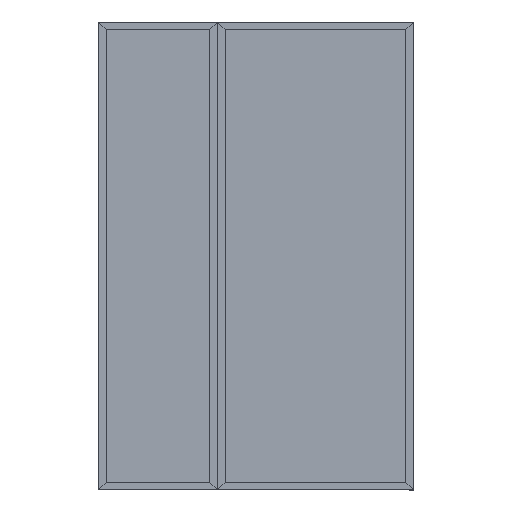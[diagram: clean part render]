
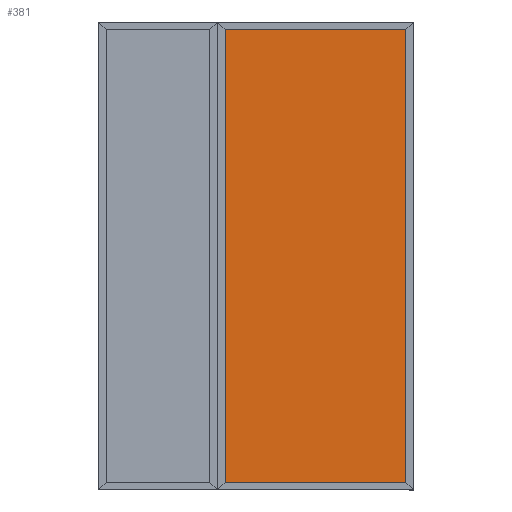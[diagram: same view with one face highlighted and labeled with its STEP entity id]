
A CAD part, top view. The second image highlights one B-rep face of the part: STEP entity #381.
In plain terms, the highlighted planar face has unit normal (0, 0, 1).
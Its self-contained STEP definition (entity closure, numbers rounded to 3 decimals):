
#368 = VERTEX_POINT ( 'NONE', #43073 ) ;
#381 = ADVANCED_FACE ( 'NONE', ( #39768 ), #43837, .F. ) ;
#1909 = VECTOR ( 'NONE', #37424, 1000. ) ;
#5001 = DIRECTION ( 'NONE',  ( 0., 0., -1. ) ) ;
#6961 = LINE ( 'NONE', #44795, #1909 ) ;
#7417 = CARTESIAN_POINT ( 'NONE',  ( 0., -1162.2, -13.25 ) ) ;
#7562 = EDGE_CURVE ( 'NONE', #368, #35717, #42198, .T. ) ;
#7586 = ORIENTED_EDGE ( 'NONE', *, *, #7562, .F. ) ;
#7831 = VERTEX_POINT ( 'NONE', #25395 ) ;
#9779 = ORIENTED_EDGE ( 'NONE', *, *, #46945, .T. ) ;
#10918 = AXIS2_PLACEMENT_3D ( 'NONE', #27583, #5001, #16657 ) ;
#11756 = VERTEX_POINT ( 'NONE', #39835 ) ;
#14916 = VECTOR ( 'NONE', #22882, 1000. ) ;
#15667 = ORIENTED_EDGE ( 'NONE', *, *, #17972, .F. ) ;
#16657 = DIRECTION ( 'NONE',  ( -1., 0., 0. ) ) ;
#17807 = LINE ( 'NONE', #33307, #36671 ) ;
#17972 = EDGE_CURVE ( 'NONE', #35717, #11756, #28154, .T. ) ;
#20061 = ORIENTED_EDGE ( 'NONE', *, *, #23492, .T. ) ;
#20840 = VECTOR ( 'NONE', #43129, 1000. ) ;
#22882 = DIRECTION ( 'NONE',  ( -1., 0., 0. ) ) ;
#23492 = EDGE_CURVE ( 'NONE', #368, #7831, #6961, .T. ) ;
#25395 = CARTESIAN_POINT ( 'NONE',  ( 465.07, 1162.2, -13.25 ) ) ;
#26219 = CARTESIAN_POINT ( 'NONE',  ( -465.07, -1162.2, -13.25 ) ) ;
#27583 = CARTESIAN_POINT ( 'NONE',  ( 0., 0., -13.25 ) ) ;
#28154 = LINE ( 'NONE', #32201, #20840 ) ;
#30984 = EDGE_LOOP ( 'NONE', ( #15667, #7586, #20061, #9779 ) ) ;
#32201 = CARTESIAN_POINT ( 'NONE',  ( -465.07, 0., -13.25 ) ) ;
#33307 = CARTESIAN_POINT ( 'NONE',  ( 0., 1162.2, -13.25 ) ) ;
#35717 = VERTEX_POINT ( 'NONE', #26219 ) ;
#36671 = VECTOR ( 'NONE', #50032, 1000. ) ;
#37424 = DIRECTION ( 'NONE',  ( 0., 1., 0. ) ) ;
#39768 = FACE_OUTER_BOUND ( 'NONE', #30984, .T. ) ;
#39835 = CARTESIAN_POINT ( 'NONE',  ( -465.07, 1162.2, -13.25 ) ) ;
#42198 = LINE ( 'NONE', #7417, #14916 ) ;
#43073 = CARTESIAN_POINT ( 'NONE',  ( 465.07, -1162.2, -13.25 ) ) ;
#43129 = DIRECTION ( 'NONE',  ( 0., 1., 0. ) ) ;
#43837 = PLANE ( 'NONE',  #10918 ) ;
#44795 = CARTESIAN_POINT ( 'NONE',  ( 465.07, 0., -13.25 ) ) ;
#46945 = EDGE_CURVE ( 'NONE', #7831, #11756, #17807, .T. ) ;
#50032 = DIRECTION ( 'NONE',  ( -1., 0., 0. ) ) ;
